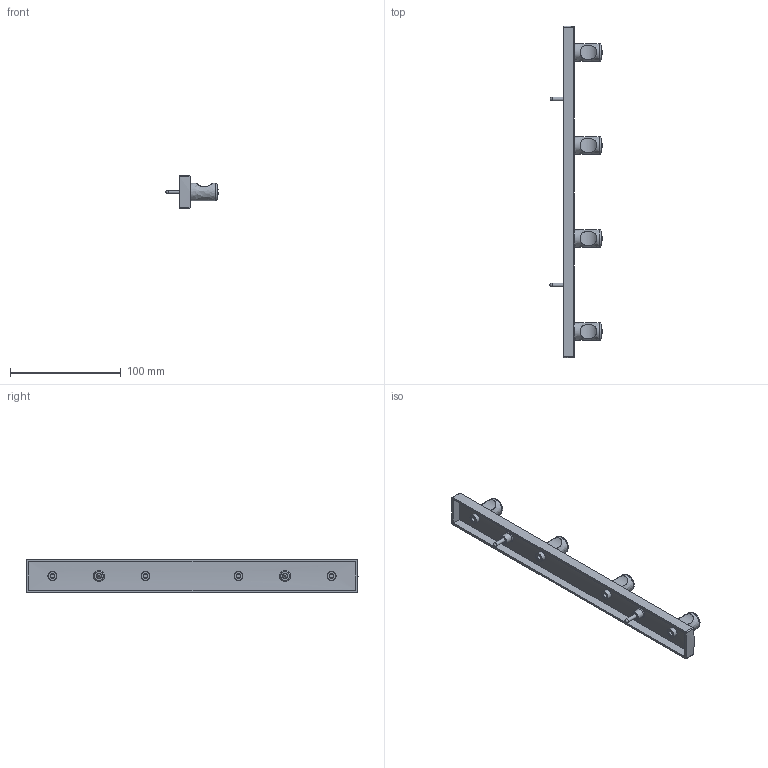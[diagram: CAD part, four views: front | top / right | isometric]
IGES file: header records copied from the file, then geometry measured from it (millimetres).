
Start section: C
Global section: file name: 8162-300.igs; native system: By Siemens PLM Incorporated; preprocessor: XPlus GENERIC/IGES 16.0.42; author: Author; organization: Title; date: 20231120.105022; units: millimetre
Bounding box: 47.22 x 299.65 x 30 mm (x, y, z)
Surface area: 43270.8 mm2 (no closed solid volume)
Topology: 0 solids, 0 shells, 157 faces, 796 edges, 792 vertices
Faces by surface type: bspline 157
